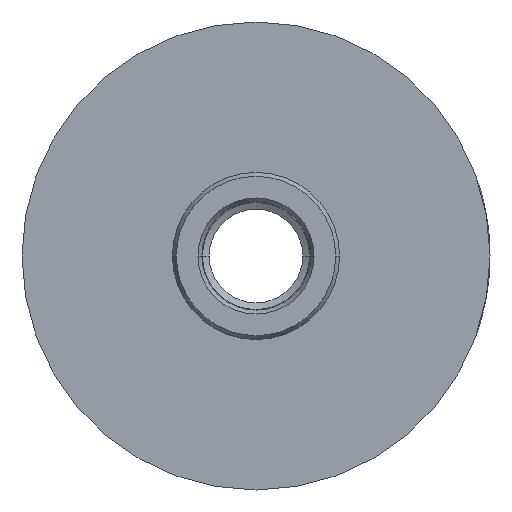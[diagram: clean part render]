
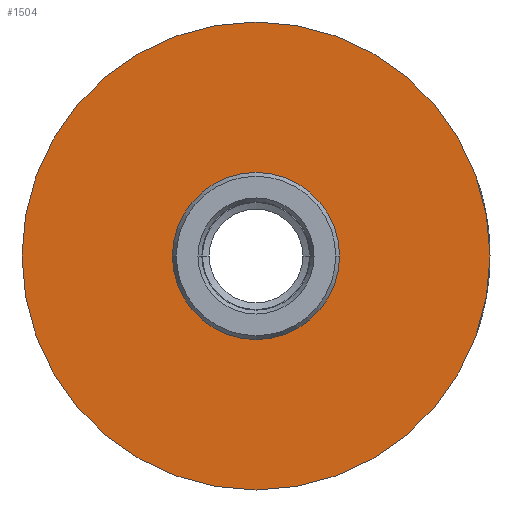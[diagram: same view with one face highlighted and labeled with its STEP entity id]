
A CAD part, front view. The second image highlights one B-rep face of the part: STEP entity #1504.
In plain terms, the highlighted planar face has unit normal (0, -1, 0).
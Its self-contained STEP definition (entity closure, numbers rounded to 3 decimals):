
#85 = CARTESIAN_POINT ( 'NONE',  ( 12.5, 0., 0. ) ) ;
#90 = DIRECTION ( 'NONE',  ( 0., 0., 1. ) ) ;
#122 = CIRCLE ( 'NONE', #924, 35. ) ;
#140 = EDGE_LOOP ( 'NONE', ( #593, #1592 ) ) ;
#173 = CARTESIAN_POINT ( 'NONE',  ( 0., 0., 12.5 ) ) ;
#196 = CIRCLE ( 'NONE', #659, 12.5 ) ;
#245 = AXIS2_PLACEMENT_3D ( 'NONE', #2057, #1699, #2252 ) ;
#268 = DIRECTION ( 'NONE',  ( 0., 1., 0. ) ) ;
#273 = DIRECTION ( 'NONE',  ( 0., 1., 0. ) ) ;
#288 = CARTESIAN_POINT ( 'NONE',  ( 0., 0., 0. ) ) ;
#318 = ORIENTED_EDGE ( 'NONE', *, *, #1415, .T. ) ;
#381 = ORIENTED_EDGE ( 'NONE', *, *, #1274, .T. ) ;
#500 = EDGE_LOOP ( 'NONE', ( #381, #318 ) ) ;
#593 = ORIENTED_EDGE ( 'NONE', *, *, #1604, .F. ) ;
#630 = VERTEX_POINT ( 'NONE', #173 ) ;
#648 = FACE_BOUND ( 'NONE', #500, .T. ) ;
#659 = AXIS2_PLACEMENT_3D ( 'NONE', #288, #268, #90 ) ;
#897 = CIRCLE ( 'NONE', #1467, 35. ) ;
#924 = AXIS2_PLACEMENT_3D ( 'NONE', #1449, #1989, #2007 ) ;
#969 = DIRECTION ( 'NONE',  ( 0., 1., 0. ) ) ;
#975 = AXIS2_PLACEMENT_3D ( 'NONE', #85, #273, #1902 ) ;
#1274 = EDGE_CURVE ( 'NONE', #630, #1821, #196, .T. ) ;
#1327 = PLANE ( 'NONE',  #975 ) ;
#1375 = CARTESIAN_POINT ( 'NONE',  ( 0., 0., 35. ) ) ;
#1415 = EDGE_CURVE ( 'NONE', #1821, #630, #1717, .T. ) ;
#1449 = CARTESIAN_POINT ( 'NONE',  ( 0., 0., 0. ) ) ;
#1453 = CARTESIAN_POINT ( 'NONE',  ( 0., 0., -12.5 ) ) ;
#1467 = AXIS2_PLACEMENT_3D ( 'NONE', #1730, #969, #1673 ) ;
#1494 = VERTEX_POINT ( 'NONE', #1375 ) ;
#1504 = ADVANCED_FACE ( 'NONE', ( #1775, #648 ), #1327, .F. ) ;
#1592 = ORIENTED_EDGE ( 'NONE', *, *, #1895, .F. ) ;
#1604 = EDGE_CURVE ( 'NONE', #1494, #1688, #897, .T. ) ;
#1652 = CARTESIAN_POINT ( 'NONE',  ( 0., 0., -35. ) ) ;
#1673 = DIRECTION ( 'NONE',  ( 0., 0., 1. ) ) ;
#1688 = VERTEX_POINT ( 'NONE', #1652 ) ;
#1699 = DIRECTION ( 'NONE',  ( 0., 1., 0. ) ) ;
#1717 = CIRCLE ( 'NONE', #245, 12.5 ) ;
#1730 = CARTESIAN_POINT ( 'NONE',  ( 0., 0., 0. ) ) ;
#1775 = FACE_OUTER_BOUND ( 'NONE', #140, .T. ) ;
#1821 = VERTEX_POINT ( 'NONE', #1453 ) ;
#1895 = EDGE_CURVE ( 'NONE', #1688, #1494, #122, .T. ) ;
#1902 = DIRECTION ( 'NONE',  ( 0., 0., 1. ) ) ;
#1989 = DIRECTION ( 'NONE',  ( 0., 1., 0. ) ) ;
#2007 = DIRECTION ( 'NONE',  ( 0., 0., 1. ) ) ;
#2057 = CARTESIAN_POINT ( 'NONE',  ( 0., 0., 0. ) ) ;
#2252 = DIRECTION ( 'NONE',  ( 0., 0., 1. ) ) ;
